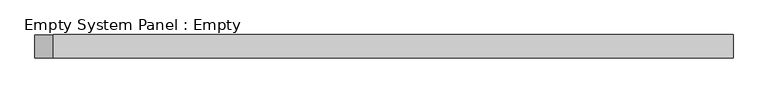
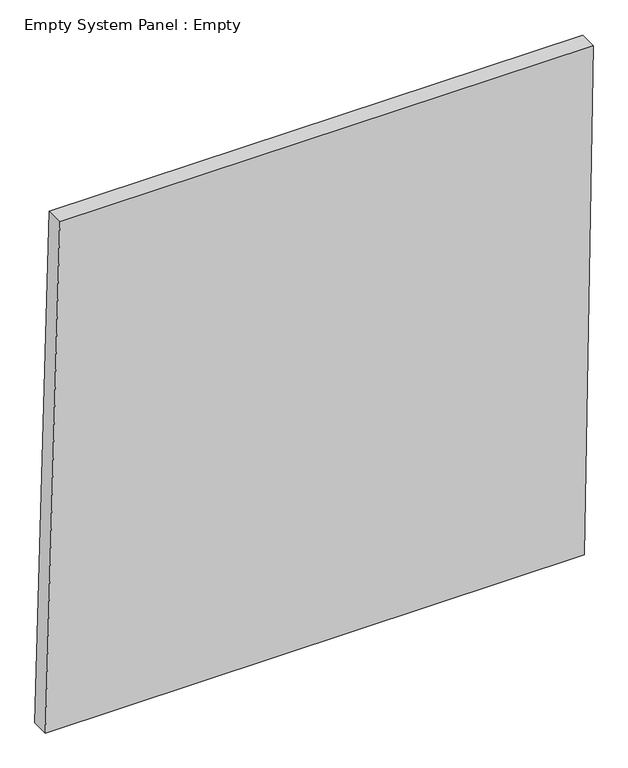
"""IFC4 building model written with IfcOpenShell, lengths in millimetres: plate geometry, Empty System Panel : Empty."""

from ifc_helpers import new_model, si_unit, frame, origin, place, context, project, spatial, polyline, outline, extrude, source, transform, mapped, element, save


def empty_system_panel_empty_5c7e0a77(model_context):
    return source(origin(), model_context, "Body", "SweptSolid", [
        extrude(outline(polyline([(0.0, -1526.1579204), (0.0, 1476.5097845), (2981.0747357, 1526.1579204), (2983.774188, -1445.6186374), (0.0, -1526.1579204)])), frame((0.0, -50.8, 0.0), z_axis=(0.0, 1.0, 0.0), x_axis=(0.0, 0.0, 1.0)), (0.0, 0.0, 1.0), 101.6),
    ])


if __name__ == "__main__":
    model = new_model("IFC4")
    model_context = context("Model", 3, world=origin())
    ifc_project = project(units=[si_unit("LENGTHUNIT", "METRE", prefix="MILLI")], contexts=[model_context])
    site = spatial("IfcSite", under=ifc_project)
    building = spatial("IfcBuilding", under=site)
    placement = place(None, origin())
    empty_system_panel_empty_shape = empty_system_panel_empty_5c7e0a77(model_context)
    element("IfcPlate", 1, ObjectType="Empty System Panel : Empty", at=placement, inside=building, context=model_context, shape_type="MappedRepresentation", body=[
        mapped(empty_system_panel_empty_shape, transform((0.0, 0.0, 0.0), x_axis=(1.0, 0.0, 0.0), y_axis=(0.0, 1.0, 0.0), z_axis=(0.0, 0.0, 1.0))),
    ])
    save(model, "model.ifc")
